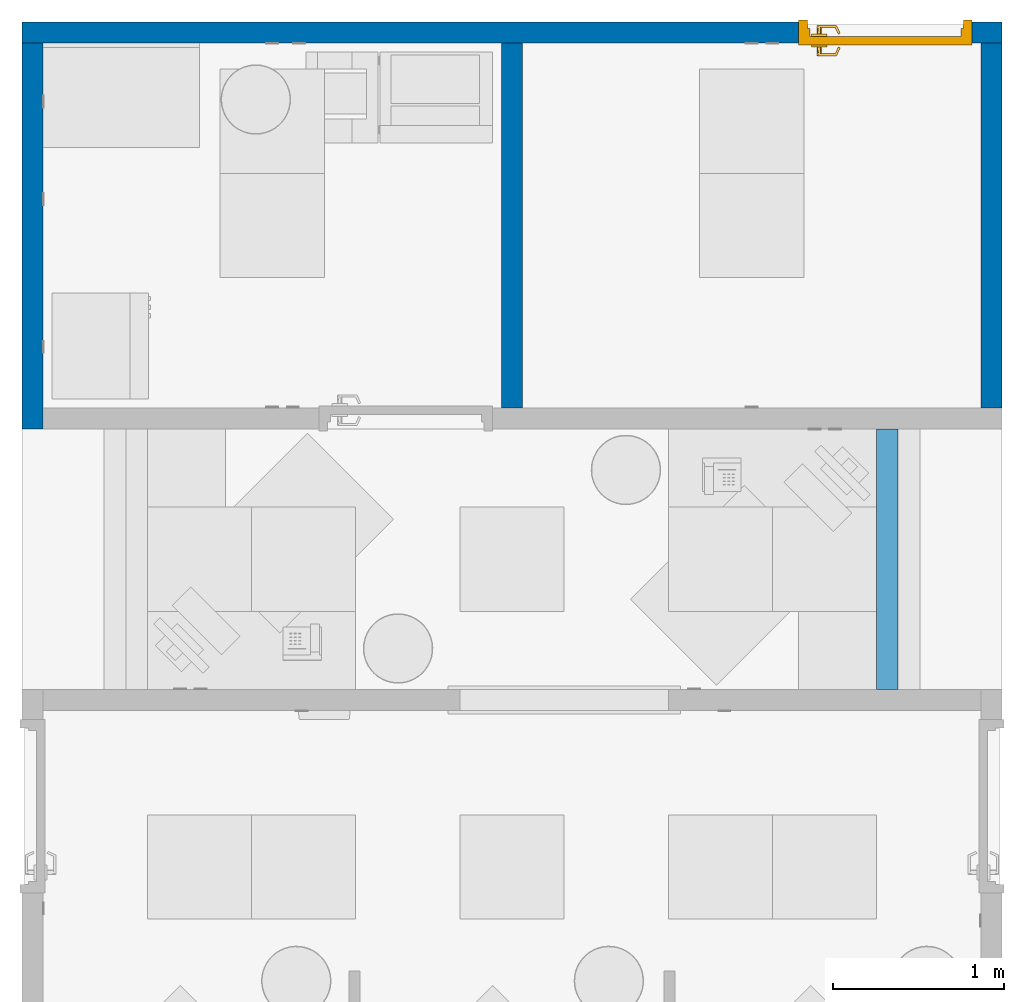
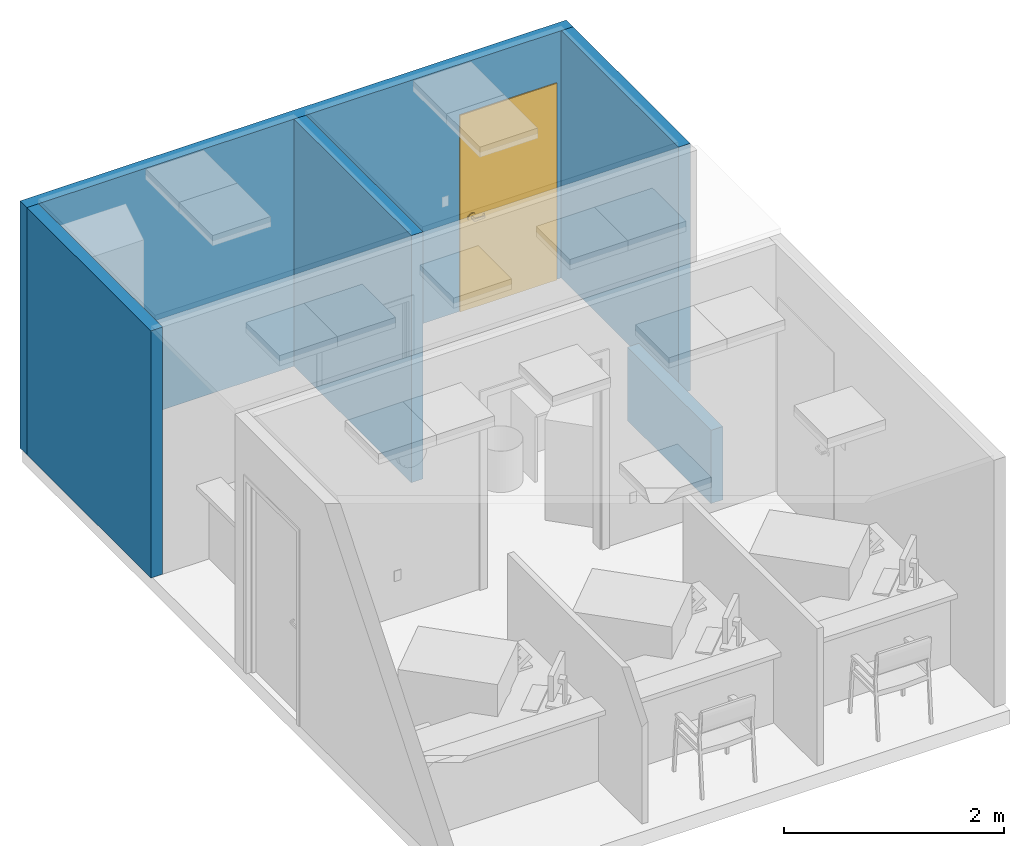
# One storey, part 4 of 20: 5 walls, 1 door, 1 opening.
"""IFC2X3 building model written with IfcOpenShell, lengths in feet."""

from ifc_helpers import new_model, entity, si_unit, converted_unit, derived_unit, direction, frame, frame_2d, origin, place, context, subcontext, project, spatial, rectangle, extrude, faceted_brep, source, transform, mapped, material, layer, layer_set, layer_usage, type_object, type_shapes, element, fill, save


model = new_model("IFC2X3")

# Units and contexts
model_context = context("Model", 3, precision=0.0001, world=origin(), true_north=direction((6.12303176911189e-17, 1.0)))
body_context = subcontext(model_context, "Body", "Model", "MODEL_VIEW")
ifc_project = project(units=[converted_unit("LENGTHUNIT", "FOOT", entity("IfcRatioMeasure", 0.3048), si_unit("LENGTHUNIT", "METRE"), dimensions=[1, 0, 0, 0, 0, 0, 0]), converted_unit("AREAUNIT", "SQUARE FOOT", entity("IfcRatioMeasure", 0.09290304), si_unit("AREAUNIT", "SQUARE_METRE"), dimensions=[2, 0, 0, 0, 0, 0, 0]), converted_unit("VOLUMEUNIT", "CUBIC FOOT", entity("IfcRatioMeasure", 0.028316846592), si_unit("VOLUMEUNIT", "CUBIC_METRE"), dimensions=[3, 0, 0, 0, 0, 0, 0]), converted_unit("PLANEANGLEUNIT", "DEGREE", entity("IfcRatioMeasure", 0.0174532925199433), si_unit("PLANEANGLEUNIT", "RADIAN"), dimensions=[0, 0, 0, 0, 0, 0, 0]), si_unit("MASSUNIT", "GRAM", prefix="KILO"), derived_unit("MASSDENSITYUNIT", [(si_unit("MASSUNIT", "GRAM", prefix="KILO"), 1), (si_unit("LENGTHUNIT", "METRE"), -3)]), si_unit("TIMEUNIT", "SECOND"), si_unit("FREQUENCYUNIT", "HERTZ"), si_unit("THERMODYNAMICTEMPERATUREUNIT", "DEGREE_CELSIUS"), derived_unit("THERMALTRANSMITTANCEUNIT", [(si_unit("MASSUNIT", "GRAM", prefix="KILO"), 1), (si_unit("THERMODYNAMICTEMPERATUREUNIT", "KELVIN"), -1), (si_unit("TIMEUNIT", "SECOND"), -3)]), derived_unit("VOLUMETRICFLOWRATEUNIT", [(si_unit("LENGTHUNIT", "METRE"), 3), (si_unit("TIMEUNIT", "SECOND"), -1)]), si_unit("ELECTRICCURRENTUNIT", "AMPERE"), si_unit("ELECTRICVOLTAGEUNIT", "VOLT"), si_unit("POWERUNIT", "WATT"), si_unit("FORCEUNIT", "NEWTON"), si_unit("ILLUMINANCEUNIT", "LUX"), si_unit("LUMINOUSFLUXUNIT", "LUMEN"), si_unit("LUMINOUSINTENSITYUNIT", "CANDELA"), derived_unit("USERDEFINED", [(si_unit("MASSUNIT", "GRAM", prefix="KILO"), -1), (si_unit("LENGTHUNIT", "METRE"), -2), (si_unit("TIMEUNIT", "SECOND"), 3), (si_unit("LUMINOUSFLUXUNIT", "LUMEN"), 1)]), derived_unit("LINEARVELOCITYUNIT", [(si_unit("LENGTHUNIT", "METRE"), 1), (si_unit("TIMEUNIT", "SECOND"), -1)]), si_unit("PRESSUREUNIT", "PASCAL"), derived_unit("USERDEFINED", [(si_unit("LENGTHUNIT", "METRE"), -2), (si_unit("MASSUNIT", "GRAM", prefix="KILO"), 1), (si_unit("TIMEUNIT", "SECOND"), -2)])], contexts=[model_context])

# Site, building, storey
site_placement = place(None, origin())
site = spatial("IfcSite", under=ifc_project, at=site_placement, Name="Default", CompositionType="ELEMENT")
building_placement = place(site_placement, origin())
building = spatial("IfcBuilding", under=site, at=building_placement, Name="OUTPATIENT / PACT CLINIC (Ch. 265)", CompositionType="ELEMENT")
storey_placement = place(building_placement, origin())
storey = spatial("IfcBuildingStorey", under=building, at=storey_placement, Name="DATUM", CompositionType="ELEMENT", Elevation=0.0)

# Wall, opening, door
ifc_material = material(Name="<Unnamed>")
ifc_layer = layer(ifc_material, 0.40625)
ifc_layer_set = layer_set([ifc_layer], Name="Basic Wall:Interior - 4 7/8\"")
ifc_layer_usage_1 = layer_usage(ifc_layer_set, "AXIS2", "NEGATIVE", 0.203125)
wall_type = type_object("IfcWallType", Name="Basic Wall:Interior - 4 7/8\"", PredefinedType="STANDARD", material=ifc_layer_set)
wall_1_placement = place(storey_placement, frame((55.8578634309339, -841.909214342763, 0.0)))
wall_1 = element("IfcWallStandardCase", 1, at=wall_1_placement, inside=storey, type_object=wall_type, material=ifc_layer_usage_1, Name="Basic Wall:Interior - 4 7/8\"", ObjectType="Basic Wall:Interior - 4 7/8\"", context=body_context, shape_type="SweptSolid", body=[
    extrude(rectangle(XDim=18.8125, YDim=0.40625, at=frame_2d((9.40625000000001, 2.96984659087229e-15), x_axis=(-1.0, 0.0))), origin(), (0.0, 0.0, 1.0), 9.0),
])
opening_placement = place(wall_1_placement, frame((18.2395833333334, 0.203124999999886, 0.0)))
opening = element("IfcOpeningElement", 2, at=opening_placement, cuts=wall_1, Name="Single - Flush:36\" x 84\":1", ObjectType="Opening", context=body_context, shape_type="SweptSolid", body=[
    extrude(rectangle(XDim=3.33333333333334, YDim=7.16666666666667, at=frame_2d((3.58333333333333, 1.66666666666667), x_axis=(0.0, -1.0))), frame((0.0, 0.0, 0.0), z_axis=(0.0, -1.0, 0.0), x_axis=(0.0, 0.0, 1.0)), (0.0, 0.0, 1.0), 0.40625),
])
door_style = type_object("IfcDoorStyle", Name="36\" x 84\"", ConstructionType="NOTDEFINED", OperationType="NOTDEFINED", ParameterTakesPrecedence=False, Sizeable=False)
shared_shape = source(origin(), body_context, "Body", "Brep", [
    faceted_brep([(2.62432039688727, 0.123080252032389, 3.36458333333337), (2.63071126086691, 0.109375, 3.36458333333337), (2.63071126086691, 0.109375, 3.30208333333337), (2.62432039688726, 0.12308025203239, 3.30208333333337), (2.57149311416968, 0.23636872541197, 3.31250000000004), (2.57149311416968, 0.23636872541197, 3.3541666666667), (2.53373028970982, 0.218759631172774, 3.31250000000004), (2.5865575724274, 0.105471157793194, 3.30208333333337), (2.6041666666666, 0.0677083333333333, 3.30208333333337), (2.6041666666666, 0.067708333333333, 3.36458333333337), (2.58655757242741, 0.105471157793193, 3.36458333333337), (2.53373028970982, 0.218759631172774, 3.3541666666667), (2.6041666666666, 0.109375, 3.30208333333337), (2.6041666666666, 0.109375, 3.36458333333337), (2.93619600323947, 0.0677083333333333, 3.29168707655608), (2.94639661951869, 0.0677083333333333, 3.29262754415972), (2.95605949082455, 0.0677083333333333, 3.29602842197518), (2.9646005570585, 0.0677083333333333, 3.3016841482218), (2.97150356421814, 0.0677083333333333, 3.30925286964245), (2.97635126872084, 0.0677083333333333, 3.31827710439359), (2.97885065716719, 0.0677083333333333, 3.32821139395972), (2.97885065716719, 0.0677083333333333, 3.33845527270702), (2.97635126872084, 0.0677083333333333, 3.34838956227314), (2.97150356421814, 0.0677083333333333, 3.35741379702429), (2.9646005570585, 0.0677083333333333, 3.36498251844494), (2.95605949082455, 0.0677083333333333, 3.37063824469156), (2.94639661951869, 0.0677083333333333, 3.37403912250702), (2.93619600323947, 0.0677083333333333, 3.37497959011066), (2.92566985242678, 0.109375, 3.29338137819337), (2.93619600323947, 0.109375, 3.29168707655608), (2.93619600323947, 0.109375, 3.37497959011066), (2.92566985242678, 0.109375, 3.37328528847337), (2.91591827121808, 0.109375, 3.36897516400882), (2.90757973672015, 0.109375, 3.36233141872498), (2.90120020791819, 0.109375, 3.35378904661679), (2.8971973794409, 0.109375, 3.34390735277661), (2.89583333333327, 0.109375, 3.33333333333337), (2.8971973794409, 0.109375, 3.32275931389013), (2.90120020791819, 0.109375, 3.31287762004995), (2.90757973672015, 0.109375, 3.30433524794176), (2.91591827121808, 0.109375, 3.29769150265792), (2.94568224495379, 0.109375, 3.29247795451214), (2.95473886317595, 0.109375, 3.2954000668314), (2.96289592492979, 0.109375, 3.30030065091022), (2.96972778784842, 0.109375, 3.30692347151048), (2.97487870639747, 0.109375, 3.31492291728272), (2.97808054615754, 0.109375, 3.32388185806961), (2.9791666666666, 0.109375, 3.33333333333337), (2.97808054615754, 0.109375, 3.34278480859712), (2.97487870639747, 0.109375, 3.35174374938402), (2.96972778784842, 0.109375, 3.35974319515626), (2.96289592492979, 0.109375, 3.36636601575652), (2.95473886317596, 0.109375, 3.37126659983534), (2.94568224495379, 0.109375, 3.3741887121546), (2.97774690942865, 0.234375, 3.34411746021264), (2.9791666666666, 0.234375, 3.33333333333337), (2.97358439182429, 0.234375, 3.3541666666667), (2.96696278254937, 0.234375, 3.36279611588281), (2.95833333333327, 0.234375, 3.36941772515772), (2.94828412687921, 0.234375, 3.37358024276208), (2.93749999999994, 0.234375, 3.37500000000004), (2.92671587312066, 0.234375, 3.37358024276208), (2.9166666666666, 0.234375, 3.36941772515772), (2.9080372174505, 0.234375, 3.36279611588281), (2.90141560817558, 0.234375, 3.3541666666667), (2.89725309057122, 0.234375, 3.34411746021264), (2.89583333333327, 0.234375, 3.33333333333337), (2.89725309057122, 0.234375, 3.3225492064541), (2.90141560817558, 0.234375, 3.31250000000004), (2.9080372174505, 0.234375, 3.30387055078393), (2.9166666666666, 0.234375, 3.29724894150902), (2.92671587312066, 0.234375, 3.29308642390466), (2.93749999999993, 0.234375, 3.2916666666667), (2.94828412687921, 0.234375, 3.29308642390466), (2.95833333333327, 0.234375, 3.29724894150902), (2.96696278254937, 0.234375, 3.30387055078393), (2.97358439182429, 0.234375, 3.31250000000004), (2.97774690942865, 0.234375, 3.3225492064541), (2.86458333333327, 0.234375, 3.4596287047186), (2.8343802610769, 0.234375, 3.43645307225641), (2.89975555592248, 0.234375, 3.47419751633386), (2.93749999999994, 0.234375, 3.4791666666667), (2.97524444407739, 0.234375, 3.47419751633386), (3.0104166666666, 0.234375, 3.4596287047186), (3.04061973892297, 0.234375, 3.43645307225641), (3.06379537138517, 0.234375, 3.40625000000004), (3.07836418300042, 0.234375, 3.37107777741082), (3.08333333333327, 0.234375, 3.33333333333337), (3.07836418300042, 0.234375, 3.29558888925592), (3.06379537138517, 0.234375, 3.2604166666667), (3.04061973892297, 0.234375, 3.23021359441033), (3.0104166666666, 0.234375, 3.20703796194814), (2.97524444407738, 0.234375, 3.19246915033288), (2.93749999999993, 0.234375, 3.18750000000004), (2.89975555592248, 0.234375, 3.19246915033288), (2.86458333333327, 0.234375, 3.20703796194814), (2.8343802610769, 0.234375, 3.23021359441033), (2.8112046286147, 0.234375, 3.2604166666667), (2.79663581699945, 0.234375, 3.29558888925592), (2.7916666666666, 0.234375, 3.33333333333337), (2.79663581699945, 0.234375, 3.37107777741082), (2.8112046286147, 0.234375, 3.40625000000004), (2.8343802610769, 0.276041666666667, 3.23021359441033), (2.8112046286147, 0.276041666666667, 3.2604166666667), (2.79663581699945, 0.276041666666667, 3.29558888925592), (2.7916666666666, 0.276041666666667, 3.33333333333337), (2.79663581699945, 0.276041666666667, 3.37107777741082), (2.8112046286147, 0.276041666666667, 3.40625000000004), (2.8343802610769, 0.276041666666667, 3.43645307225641), (2.86458333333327, 0.276041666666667, 3.4596287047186), (2.89975555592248, 0.276041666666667, 3.47419751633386), (2.93749999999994, 0.276041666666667, 3.4791666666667), (2.97524444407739, 0.276041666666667, 3.47419751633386), (3.0104166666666, 0.276041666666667, 3.4596287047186), (3.04061973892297, 0.276041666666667, 3.43645307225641), (3.06379537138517, 0.276041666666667, 3.40625000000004), (3.07836418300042, 0.276041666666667, 3.37107777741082), (3.08333333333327, 0.276041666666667, 3.33333333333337), (3.07836418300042, 0.276041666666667, 3.29558888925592), (3.06379537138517, 0.276041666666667, 3.2604166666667), (3.04061973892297, 0.276041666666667, 3.23021359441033), (3.0104166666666, 0.276041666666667, 3.20703796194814), (2.97524444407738, 0.276041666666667, 3.19246915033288), (2.93749999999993, 0.276041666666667, 3.18750000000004), (2.89975555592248, 0.276041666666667, 3.19246915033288), (2.86458333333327, 0.276041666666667, 3.20703796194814)], [[[0, 1, 2, 3, 4, 5]], [[6, 7, 8, 9, 10, 11]], [[3, 2, 12, 8, 7]], [[4, 3, 7, 6]], [[5, 4, 6, 11]], [[0, 5, 11, 10]], [[1, 0, 10, 9, 13]], [[9, 8, 14, 15, 16, 17, 18, 19, 20, 21, 22, 23, 24, 25, 26, 27]], [[28, 29, 12, 2, 1, 13, 30, 31, 32, 33, 34, 35, 36, 37, 38, 39, 40]], [[14, 8, 12, 29]], [[41, 14, 29]], [[42, 15, 41]], [[17, 43, 44]], [[44, 45, 18]], [[42, 43, 16]], [[46, 19, 45]], [[42, 16, 15]], [[15, 14, 41]], [[19, 18, 45]], [[17, 44, 18]], [[17, 16, 43]], [[20, 19, 46]], [[46, 47, 20]], [[48, 21, 47]], [[49, 22, 48]], [[24, 50, 51]], [[51, 52, 25]], [[49, 50, 23]], [[53, 26, 52]], [[24, 23, 50]], [[23, 22, 49]], [[22, 21, 48]], [[27, 26, 53]], [[25, 52, 26]], [[25, 24, 51]], [[27, 53, 30]], [[47, 21, 20]], [[9, 27, 30, 13]], [[54, 48, 55]], [[56, 49, 54]], [[51, 57, 58]], [[56, 57, 50]], [[52, 58, 59]], [[54, 49, 48]], [[48, 47, 55]], [[52, 51, 58]], [[50, 57, 51]], [[50, 49, 56]], [[53, 52, 59]], [[59, 60, 53]], [[61, 30, 60]], [[62, 31, 61]], [[33, 63, 64]], [[64, 65, 34]], [[62, 63, 32]], [[66, 35, 65]], [[62, 32, 31]], [[31, 30, 61]], [[35, 34, 65]], [[33, 64, 34]], [[33, 32, 63]], [[36, 35, 66]], [[60, 30, 53]], [[67, 37, 66]], [[68, 38, 67]], [[40, 69, 70]], [[68, 69, 39]], [[28, 70, 71]], [[67, 38, 37]], [[37, 36, 66]], [[28, 40, 70]], [[39, 69, 40]], [[39, 38, 68]], [[29, 28, 71]], [[71, 72, 29]], [[73, 41, 72]], [[74, 42, 73]], [[44, 75, 76]], [[76, 77, 45]], [[74, 75, 43]], [[55, 46, 77]], [[74, 43, 42]], [[42, 41, 73]], [[46, 45, 77]], [[44, 76, 45]], [[44, 43, 75]], [[47, 46, 55]], [[72, 41, 29]], [[62, 61, 78]], [[79, 62, 78]], [[62, 79, 63]], [[61, 80, 78]], [[80, 61, 60]], [[80, 60, 81]], [[59, 81, 60]], [[81, 59, 82]], [[59, 58, 82]], [[83, 82, 58]], [[57, 83, 58]], [[83, 57, 84]], [[56, 84, 57]], [[85, 84, 56]], [[54, 85, 56]], [[86, 85, 54]], [[86, 54, 55]], [[86, 55, 87]], [[87, 55, 77]], [[87, 77, 88]], [[88, 77, 76]], [[88, 76, 89]], [[90, 89, 76]], [[90, 76, 75]], [[75, 91, 90]], [[75, 74, 91]], [[92, 91, 74]], [[73, 92, 74]], [[73, 93, 92]], [[93, 73, 72]], [[72, 94, 93]], [[71, 94, 72]], [[94, 71, 95]], [[70, 95, 71]], [[96, 95, 70]], [[96, 70, 69]], [[96, 69, 97]], [[97, 69, 68]], [[97, 68, 98]], [[67, 98, 68]], [[99, 98, 67]], [[67, 66, 99]], [[66, 100, 99]], [[100, 66, 65]], [[100, 65, 101]], [[65, 64, 101]], [[63, 101, 64]], [[79, 101, 63]], [[102, 103, 104, 105, 106, 107, 108, 109, 110, 111, 112, 113, 114, 115, 116, 117, 118, 119, 120, 121, 122, 123, 124, 125]], [[116, 86, 87, 117]], [[115, 85, 86, 116]], [[83, 84, 114, 113]], [[115, 114, 84, 85]], [[82, 83, 113, 112]], [[81, 82, 112, 111]], [[110, 80, 81, 111]], [[109, 78, 80, 110]], [[101, 79, 108, 107]], [[109, 108, 79, 78]], [[100, 101, 107, 106]], [[99, 100, 106, 105]], [[104, 98, 99, 105]], [[103, 97, 98, 104]], [[95, 96, 102, 125]], [[103, 102, 96, 97]], [[94, 95, 125, 124]], [[93, 94, 124, 123]], [[122, 92, 93, 123]], [[121, 91, 92, 122]], [[89, 90, 120, 119]], [[121, 120, 90, 91]], [[88, 89, 119, 118]], [[87, 88, 118, 117]]]),
    faceted_brep([(2.62432039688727, 0.595669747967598, 3.30208333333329), (2.63071126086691, 0.609374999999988, 3.30208333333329), (2.63071126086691, 0.609374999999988, 3.36458333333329), (2.62432039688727, 0.595669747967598, 3.36458333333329), (2.57149311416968, 0.482381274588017, 3.35416666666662), (2.57149311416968, 0.482381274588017, 3.31249999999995), (2.53373028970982, 0.499990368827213, 3.35416666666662), (2.58655757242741, 0.613278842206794, 3.36458333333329), (2.6041666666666, 0.651041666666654, 3.36458333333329), (2.6041666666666, 0.651041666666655, 3.30208333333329), (2.58655757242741, 0.613278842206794, 3.30208333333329), (2.53373028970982, 0.499990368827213, 3.31249999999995), (2.6041666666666, 0.609374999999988, 3.36458333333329), (2.6041666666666, 0.609374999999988, 3.30208333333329), (2.93619600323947, 0.651041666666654, 3.37497959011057), (2.94639661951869, 0.651041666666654, 3.37403912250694), (2.95605949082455, 0.651041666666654, 3.37063824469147), (2.9646005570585, 0.651041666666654, 3.36498251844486), (2.97150356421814, 0.651041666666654, 3.35741379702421), (2.97635126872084, 0.651041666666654, 3.34838956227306), (2.97885065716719, 0.651041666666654, 3.33845527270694), (2.97885065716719, 0.651041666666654, 3.32821139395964), (2.97635126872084, 0.651041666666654, 3.31827710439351), (2.97150356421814, 0.651041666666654, 3.30925286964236), (2.9646005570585, 0.651041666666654, 3.30168414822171), (2.95605949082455, 0.651041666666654, 3.2960284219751), (2.94639661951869, 0.651041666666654, 3.29262754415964), (2.93619600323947, 0.651041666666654, 3.291687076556), (2.92566985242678, 0.609374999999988, 3.37328528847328), (2.93619600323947, 0.609374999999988, 3.37497959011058), (2.93619600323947, 0.609374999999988, 3.291687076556), (2.92566985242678, 0.609374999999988, 3.29338137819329), (2.91591827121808, 0.609374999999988, 3.29769150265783), (2.90757973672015, 0.609374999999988, 3.30433524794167), (2.9012002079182, 0.609374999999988, 3.31287762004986), (2.89719737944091, 0.609374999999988, 3.32275931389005), (2.89583333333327, 0.609374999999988, 3.33333333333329), (2.89719737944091, 0.609374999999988, 3.34390735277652), (2.9012002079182, 0.609374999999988, 3.35378904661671), (2.90757973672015, 0.609374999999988, 3.3623314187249), (2.91591827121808, 0.609374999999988, 3.36897516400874), (2.94568224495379, 0.609374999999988, 3.37418871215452), (2.95473886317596, 0.609374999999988, 3.37126659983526), (2.96289592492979, 0.609374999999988, 3.36636601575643), (2.96972778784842, 0.609374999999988, 3.35974319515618), (2.97487870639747, 0.609374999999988, 3.35174374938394), (2.97808054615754, 0.609374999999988, 3.34278480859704), (2.9791666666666, 0.609374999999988, 3.33333333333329), (2.97808054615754, 0.609374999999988, 3.32388185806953), (2.97487870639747, 0.609374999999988, 3.31492291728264), (2.96972778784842, 0.609374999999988, 3.30692347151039), (2.96289592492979, 0.609374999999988, 3.30030065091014), (2.95473886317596, 0.609374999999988, 3.29540006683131), (2.94568224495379, 0.609374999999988, 3.29247795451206), (2.97774690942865, 0.484374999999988, 3.32254920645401), (2.9791666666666, 0.484374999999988, 3.33333333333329), (2.97358439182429, 0.484374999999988, 3.31249999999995), (2.96696278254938, 0.484374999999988, 3.30387055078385), (2.95833333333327, 0.484374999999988, 3.29724894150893), (2.94828412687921, 0.484374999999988, 3.29308642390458), (2.93749999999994, 0.484374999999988, 3.29166666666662), (2.92671587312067, 0.484374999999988, 3.29308642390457), (2.9166666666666, 0.484374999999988, 3.29724894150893), (2.9080372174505, 0.484374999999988, 3.30387055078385), (2.90141560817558, 0.484374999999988, 3.31249999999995), (2.89725309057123, 0.484374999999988, 3.32254920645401), (2.89583333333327, 0.484374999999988, 3.33333333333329), (2.89725309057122, 0.484374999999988, 3.34411746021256), (2.90141560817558, 0.484374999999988, 3.35416666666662), (2.9080372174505, 0.484374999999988, 3.36279611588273), (2.9166666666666, 0.484374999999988, 3.36941772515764), (2.92671587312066, 0.484374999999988, 3.373580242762), (2.93749999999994, 0.484374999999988, 3.37499999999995), (2.94828412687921, 0.484374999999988, 3.373580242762), (2.95833333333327, 0.484374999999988, 3.36941772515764), (2.96696278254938, 0.484374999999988, 3.36279611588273), (2.97358439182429, 0.484374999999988, 3.35416666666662), (2.97774690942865, 0.484374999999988, 3.34411746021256), (2.86458333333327, 0.484374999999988, 3.20703796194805), (2.8343802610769, 0.484374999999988, 3.23021359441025), (2.89975555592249, 0.484374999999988, 3.1924691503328), (2.93749999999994, 0.484374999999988, 3.18749999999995), (2.97524444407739, 0.484374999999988, 3.1924691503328), (3.0104166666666, 0.484374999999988, 3.20703796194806), (3.04061973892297, 0.484374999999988, 3.23021359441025), (3.06379537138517, 0.484374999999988, 3.26041666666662), (3.07836418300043, 0.484374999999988, 3.29558888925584), (3.08333333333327, 0.484374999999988, 3.33333333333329), (3.07836418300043, 0.484374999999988, 3.37107777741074), (3.06379537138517, 0.484374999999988, 3.40624999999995), (3.04061973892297, 0.484374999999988, 3.43645307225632), (3.0104166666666, 0.484374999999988, 3.45962870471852), (2.97524444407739, 0.484374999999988, 3.47419751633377), (2.93749999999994, 0.484374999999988, 3.47916666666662), (2.89975555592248, 0.484374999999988, 3.47419751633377), (2.86458333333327, 0.484374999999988, 3.45962870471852), (2.8343802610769, 0.484374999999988, 3.43645307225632), (2.81120462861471, 0.484374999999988, 3.40624999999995), (2.79663581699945, 0.484374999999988, 3.37107777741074), (2.7916666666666, 0.484374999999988, 3.33333333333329), (2.79663581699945, 0.484374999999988, 3.29558888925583), (2.81120462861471, 0.484374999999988, 3.26041666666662), (2.8343802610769, 0.442708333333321, 3.43645307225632), (2.81120462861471, 0.442708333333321, 3.40624999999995), (2.79663581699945, 0.442708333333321, 3.37107777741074), (2.7916666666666, 0.442708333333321, 3.33333333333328), (2.79663581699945, 0.442708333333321, 3.29558888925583), (2.81120462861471, 0.442708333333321, 3.26041666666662), (2.8343802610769, 0.442708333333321, 3.23021359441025), (2.86458333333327, 0.442708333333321, 3.20703796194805), (2.89975555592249, 0.442708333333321, 3.1924691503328), (2.93749999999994, 0.442708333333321, 3.18749999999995), (2.97524444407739, 0.442708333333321, 3.1924691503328), (3.0104166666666, 0.442708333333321, 3.20703796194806), (3.04061973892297, 0.442708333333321, 3.23021359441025), (3.06379537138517, 0.442708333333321, 3.26041666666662), (3.07836418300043, 0.442708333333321, 3.29558888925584), (3.08333333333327, 0.442708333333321, 3.33333333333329), (3.07836418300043, 0.442708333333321, 3.37107777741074), (3.06379537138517, 0.442708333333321, 3.40624999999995), (3.04061973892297, 0.442708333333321, 3.43645307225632), (3.0104166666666, 0.442708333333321, 3.45962870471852), (2.97524444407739, 0.442708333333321, 3.47419751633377), (2.93749999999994, 0.442708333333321, 3.47916666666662), (2.89975555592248, 0.442708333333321, 3.47419751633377), (2.86458333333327, 0.442708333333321, 3.45962870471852)], [[[0, 1, 2, 3, 4, 5]], [[6, 7, 8, 9, 10, 11]], [[3, 2, 12, 8, 7]], [[4, 3, 7, 6]], [[5, 4, 6, 11]], [[0, 5, 11, 10]], [[1, 0, 10, 9, 13]], [[9, 8, 14, 15, 16, 17, 18, 19, 20, 21, 22, 23, 24, 25, 26, 27]], [[28, 29, 12, 2, 1, 13, 30, 31, 32, 33, 34, 35, 36, 37, 38, 39, 40]], [[14, 8, 12, 29]], [[41, 14, 29]], [[42, 15, 41]], [[17, 43, 44]], [[44, 45, 18]], [[42, 43, 16]], [[46, 19, 45]], [[42, 16, 15]], [[15, 14, 41]], [[19, 18, 45]], [[17, 44, 18]], [[17, 16, 43]], [[20, 19, 46]], [[46, 47, 20]], [[48, 21, 47]], [[49, 22, 48]], [[24, 50, 51]], [[51, 52, 25]], [[49, 50, 23]], [[53, 26, 52]], [[24, 23, 50]], [[23, 22, 49]], [[22, 21, 48]], [[27, 26, 53]], [[25, 52, 26]], [[25, 24, 51]], [[27, 53, 30]], [[47, 21, 20]], [[9, 27, 30, 13]], [[54, 48, 55]], [[56, 49, 54]], [[51, 57, 58]], [[56, 57, 50]], [[52, 58, 59]], [[54, 49, 48]], [[48, 47, 55]], [[52, 51, 58]], [[50, 57, 51]], [[50, 49, 56]], [[53, 52, 59]], [[59, 60, 53]], [[61, 30, 60]], [[62, 31, 61]], [[33, 63, 64]], [[64, 65, 34]], [[62, 63, 32]], [[66, 35, 65]], [[62, 32, 31]], [[31, 30, 61]], [[35, 34, 65]], [[33, 64, 34]], [[33, 32, 63]], [[36, 35, 66]], [[60, 30, 53]], [[67, 37, 66]], [[68, 38, 67]], [[40, 69, 70]], [[68, 69, 39]], [[28, 70, 71]], [[67, 38, 37]], [[37, 36, 66]], [[28, 40, 70]], [[39, 69, 40]], [[39, 38, 68]], [[29, 28, 71]], [[71, 72, 29]], [[73, 41, 72]], [[74, 42, 73]], [[44, 75, 76]], [[76, 77, 45]], [[74, 75, 43]], [[55, 46, 77]], [[74, 43, 42]], [[42, 41, 73]], [[46, 45, 77]], [[44, 76, 45]], [[44, 43, 75]], [[47, 46, 55]], [[72, 41, 29]], [[62, 61, 78]], [[79, 62, 78]], [[62, 79, 63]], [[61, 80, 78]], [[80, 61, 60]], [[80, 60, 81]], [[59, 81, 60]], [[81, 59, 82]], [[59, 58, 82]], [[83, 82, 58]], [[57, 83, 58]], [[83, 57, 84]], [[56, 84, 57]], [[85, 84, 56]], [[54, 85, 56]], [[86, 85, 54]], [[86, 54, 55]], [[86, 55, 87]], [[87, 55, 77]], [[87, 77, 88]], [[88, 77, 76]], [[88, 76, 89]], [[90, 89, 76]], [[90, 76, 75]], [[75, 91, 90]], [[75, 74, 91]], [[92, 91, 74]], [[73, 92, 74]], [[73, 93, 92]], [[93, 73, 72]], [[72, 94, 93]], [[71, 94, 72]], [[94, 71, 95]], [[70, 95, 71]], [[96, 95, 70]], [[96, 70, 69]], [[96, 69, 97]], [[97, 69, 68]], [[97, 68, 98]], [[67, 98, 68]], [[99, 98, 67]], [[67, 66, 99]], [[66, 100, 99]], [[100, 66, 65]], [[100, 65, 101]], [[65, 64, 101]], [[63, 101, 64]], [[79, 101, 63]], [[102, 103, 104, 105, 106, 107, 108, 109, 110, 111, 112, 113, 114, 115, 116, 117, 118, 119, 120, 121, 122, 123, 124, 125]], [[116, 86, 87, 117]], [[115, 85, 86, 116]], [[83, 84, 114, 113]], [[115, 114, 84, 85]], [[82, 83, 113, 112]], [[81, 82, 112, 111]], [[110, 80, 81, 111]], [[109, 78, 80, 110]], [[101, 79, 108, 107]], [[109, 108, 79, 78]], [[100, 101, 107, 106]], [[99, 100, 106, 105]], [[104, 98, 99, 105]], [[103, 97, 98, 104]], [[95, 96, 102, 125]], [[103, 102, 96, 97]], [[94, 95, 125, 124]], [[93, 94, 124, 123]], [[122, 92, 93, 123]], [[121, 91, 92, 122]], [[89, 90, 120, 119]], [[121, 120, 90, 91]], [[88, 89, 119, 118]], [[87, 88, 118, 117]]]),
    faceted_brep([(0.166666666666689, 0.442708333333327, 7.0), (3.16666666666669, 0.442708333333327, 7.0), (3.16666666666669, 0.442708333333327, 0.0), (0.166666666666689, 0.442708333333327, 0.0), (0.166666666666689, 0.276041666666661, 7.0), (0.166666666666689, 0.276041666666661, 0.0), (3.16666666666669, 0.276041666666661, 0.0), (3.16666666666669, 0.276041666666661, 7.0)], [[[0, 1, 2, 3]], [[4, 5, 6, 7]], [[1, 0, 4, 7]], [[2, 1, 7, 6]], [[3, 2, 6, 5]], [[0, 3, 5, 4]]]),
    faceted_brep([(0.166666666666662, 0.442708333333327, 0.0), (0.166666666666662, 0.276041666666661, 0.0), (0.218749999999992, 0.276041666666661, 0.0), (0.218749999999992, 0.130208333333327, 0.0), (0.166666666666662, 0.130208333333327, 0.0), (0.166666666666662, -0.0364583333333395, 0.0), (0.0, -0.0364583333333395, 0.0), (0.0, 0.442708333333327, 0.0), (0.166666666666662, 0.442708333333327, 7.0), (0.166666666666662, 0.276041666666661, 7.0), (3.16666666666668, 0.276041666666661, 7.0), (3.16666666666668, 0.276041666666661, 0.0), (3.11458333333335, 0.27604166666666, 0.0), (3.11458333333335, 0.276041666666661, 6.94791666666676), (0.218749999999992, 0.276041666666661, 6.94791666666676), (0.218749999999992, 0.130208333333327, 6.94791666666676), (3.11458333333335, 0.130208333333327, 6.94791666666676), (3.11458333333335, 0.130208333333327, 0.0), (3.16666666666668, 0.130208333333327, 0.0), (3.16666666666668, 0.130208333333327, 7.0), (0.166666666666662, 0.130208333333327, 7.0), (0.166666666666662, -0.0364583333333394, 7.0), (3.16666666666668, -0.0364583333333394, 7.0), (3.16666666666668, -0.0364583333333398, 0.0), (3.33333333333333, -0.0364583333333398, 0.0), (3.33333333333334, -0.0364583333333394, 7.16666666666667), (0.0, -0.0364583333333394, 7.16666666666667), (0.0, 0.442708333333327, 7.16666666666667), (3.33333333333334, 0.442708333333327, 7.16666666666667), (3.33333333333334, 0.442708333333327, 0.0), (3.16666666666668, 0.442708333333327, 0.0), (3.16666666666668, 0.442708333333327, 7.0)], [[[0, 1, 2, 3, 4, 5, 6, 7]], [[1, 0, 8, 9]], [[2, 1, 9, 10, 11, 12, 13, 14]], [[3, 2, 14, 15]], [[4, 3, 15, 16, 17, 18, 19, 20]], [[5, 4, 20, 21]], [[6, 5, 21, 22, 23, 24, 25, 26]], [[7, 6, 26, 27]], [[0, 7, 27, 28, 29, 30, 31, 8]], [[30, 11, 10, 31]], [[30, 29, 24, 23, 18, 17, 12, 11]], [[12, 17, 16, 13]], [[19, 18, 23, 22]], [[29, 28, 25, 24]], [[10, 9, 8, 31]], [[15, 14, 13, 16]], [[21, 20, 19, 22]], [[25, 28, 27, 26]]]),
])
type_shapes(door_style, [shared_shape])
door_placement = place(opening_placement, frame((0.0, 0.0, 0.0), z_axis=(0.0, 0.0, 1.0), x_axis=(-1.0, 0.0, 0.0)))
door = element("IfcDoor", 3, at=door_placement, inside=storey, type_object=door_style, Name="Single - Flush:36\" x 84\"", ObjectType="36\" x 84\"", OverallHeight=7.16666666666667, OverallWidth=3.33333333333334, context=body_context, shape_type="MappedRepresentation", body=[
    mapped(shared_shape, transform((0.0, 0.0, 0.0), scale=1.0)),
])
fill(opening, door)

# Walls
ifc_layer_usage_2 = layer_usage(ifc_layer_set, "AXIS2", "NEGATIVE", 0.203125)
wall_2_placement = place(storey_placement, frame((65.2641134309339, -849.112339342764, 0.0), z_axis=(0.0, 0.0, 1.0), x_axis=(0.0, 1.0, 0.0)))
element("IfcWallStandardCase", 4, at=wall_2_placement, inside=storey, type_object=wall_type, material=ifc_layer_usage_2, Name="Basic Wall:Interior - 4 7/8\"", ObjectType="Basic Wall:Interior - 4 7/8\"", context=body_context, shape_type="SweptSolid", body=[
    extrude(rectangle(XDim=7.00000000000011, YDim=0.40625, at=frame_2d((3.50000000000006, 4.9960036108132e-16), x_axis=(-1.0, 0.0))), origin(), (0.0, 0.0, 1.0), 9.0),
])
ifc_layer_usage_3 = layer_usage(ifc_layer_set, "AXIS2", "NEGATIVE", 0.203125)
wall_3_placement = place(storey_placement, frame((56.0609884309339, -849.518589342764, 0.0), z_axis=(0.0, 0.0, 1.0), x_axis=(0.0, 1.0, 0.0)))
element("IfcWallStandardCase", 5, at=wall_3_placement, inside=storey, type_object=wall_type, material=ifc_layer_usage_3, Name="Basic Wall:Interior - 4 7/8\"", ObjectType="Basic Wall:Interior - 4 7/8\"", context=body_context, shape_type="SweptSolid", body=[
    extrude(rectangle(XDim=7.40625000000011, YDim=0.40625, at=frame_2d((3.70312500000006, -3.88578058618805e-16), x_axis=(-1.0, 0.0))), origin(), (0.0, 0.0, 1.0), 9.0),
])
ifc_layer_usage_4 = layer_usage(ifc_layer_set, "AXIS2", "POSITIVE", -0.203125)
wall_4_placement = place(storey_placement, frame((74.4672384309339, -849.112339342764, 0.0), z_axis=(0.0, 0.0, 1.0), x_axis=(0.0, 1.0, 0.0)))
element("IfcWallStandardCase", 6, at=wall_4_placement, inside=storey, type_object=wall_type, material=ifc_layer_usage_4, Name="Basic Wall:Interior - 4 7/8\"", ObjectType="Basic Wall:Interior - 4 7/8\"", context=body_context, shape_type="SweptSolid", body=[
    extrude(rectangle(XDim=7.0, YDim=0.40625, at=frame_2d((3.5, 6.35602681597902e-15), x_axis=(-1.0, 0.0))), origin(), (0.0, 0.0, 1.0), 9.0),
])
ifc_layer_usage_5 = layer_usage(ifc_layer_set, "AXIS2", "NEGATIVE", 0.203125)
wall_5_placement = place(storey_placement, frame((72.4672384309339, -849.518589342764, 0.0), z_axis=(0.0, 0.0, 1.0), x_axis=(0.0, -1.0, 0.0)))
element("IfcWallStandardCase", 7, at=wall_5_placement, inside=storey, type_object=wall_type, material=ifc_layer_usage_5, Name="Basic Wall:Interior - 4 7/8\"", ObjectType="Basic Wall:Interior - 4 7/8\"", context=body_context, shape_type="SweptSolid", body=[
    extrude(rectangle(XDim=5.0, YDim=0.40625, at=frame_2d((2.5, 0.0), x_axis=(-1.0, 0.0))), origin(), (0.0, 0.0, 1.0), 2.66666666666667),
])

save(model, "model.ifc")
